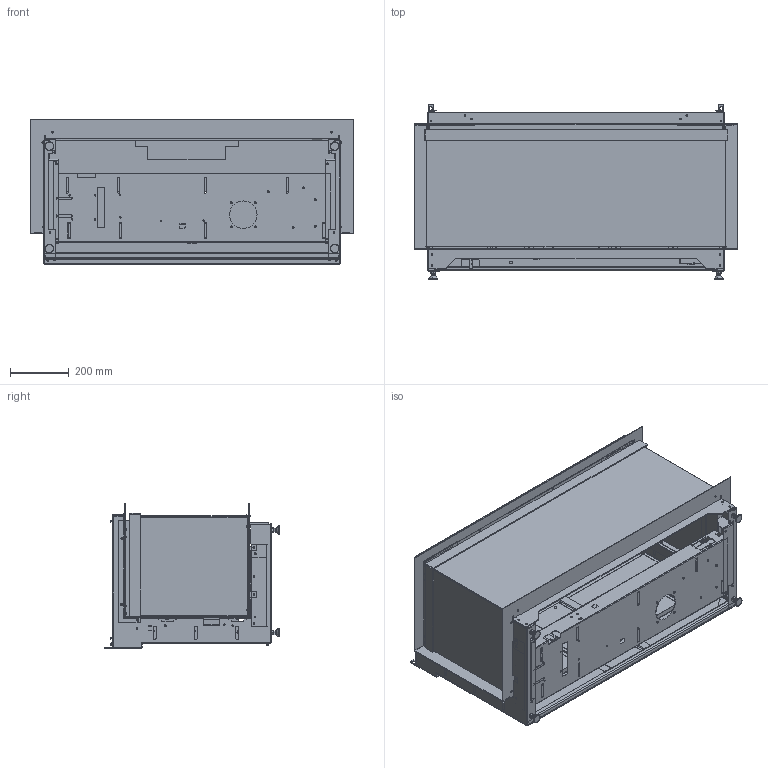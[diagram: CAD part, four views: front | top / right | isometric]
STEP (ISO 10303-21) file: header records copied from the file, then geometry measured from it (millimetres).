
FILE_DESCRIPTION (( 'STEP AP203' ), '1' );
FILE_NAME ('E-ONE 100 3S GEN 2 MAIN ASSY.STEP', '2023-11-01T14:50:24', ( '' ), ( '' ), 'SwSTEP 2.0', 'SolidWorks 2020', '' );
FILE_SCHEMA (( 'CONFIG_CONTROL_DESIGN' ));
Length unit declared in the file: millimetre
Products named in the file (1): E-ONE 100 3S GEN 2 MAIN ASSY
Bounding box: 1100 x 596.74 x 492.1 mm (x, y, z)
Surface area: 5321210.3 mm2 (no closed solid volume)
Topology: 0 solids, 211 shells, 614 faces, 4171 edges, 3673 vertices
Faces by surface type: plane 425, cylinder 120, cone 35, torus 24, bspline 9, sphere 1
Entity records: 41074 total; most frequent: CARTESIAN_POINT 9488, DIRECTION 6645, ORIENTED_EDGE 4845, EDGE_CURVE 4171, VERTEX_POINT 3673, LINE 2597, VECTOR 2597, AXIS2_PLACEMENT_3D 2024
